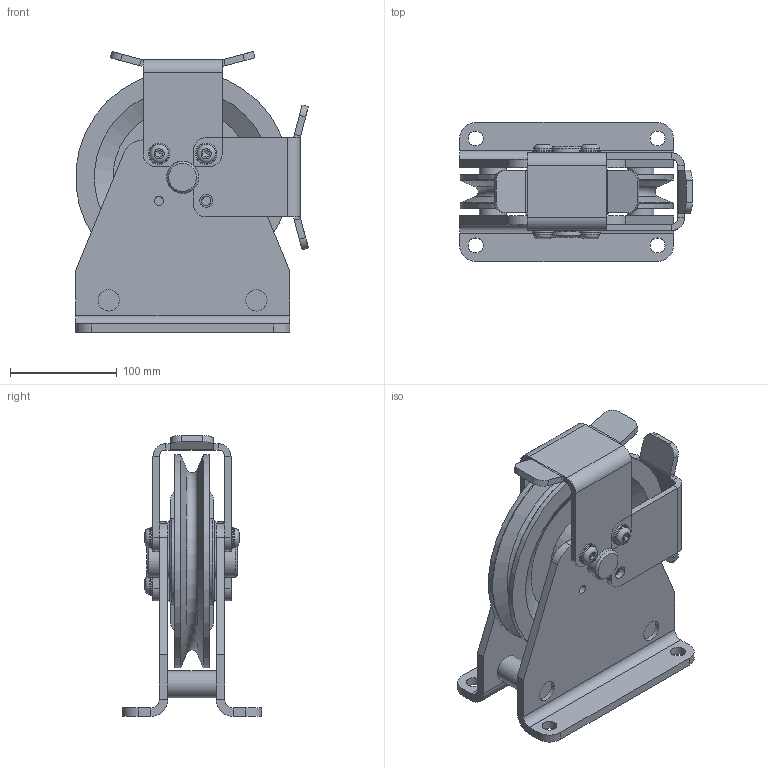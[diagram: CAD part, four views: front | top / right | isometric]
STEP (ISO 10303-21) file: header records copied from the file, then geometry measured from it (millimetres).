
FILE_DESCRIPTION(/* description */ ('Seilrollenbock Seilniederhalter ø200 Stahl Kugellager komplett'),/* implementation_level */ '2;1');
FILE_NAME(/* name */ 'Z:\Workspace\03 Seilrollen\1.406 K Seilrollenbock Seilniederhalter Kugellager\1.406.06 K Seilrollenbock Seilniederhalter ø200 Stahl Kugellager\1.406.06 K Seilrollenbock Seilniederhalter ø200 Stahl Kugellager komplett.stp',/* time_stamp */ '2021-10-07T11:40:18+02:00',/* author */ ('cad-user'),/* organization */ (''),/* preprocessor_version */ 'ST-DEVELOPER v18',/* originating_system */ 'Autodesk Inventor 2020',/* authorisation */ '');
FILE_SCHEMA (('AUTOMOTIVE_DESIGN { 1 0 10303 214 3 1 1 }'));
Length unit declared in the file: millimetre
Products named in the file (16): 1.406.06 K Seilrollenbock Seilniederhalter ø200 Stahl Kugellager 
komplett; 1.405.06.01 Seilrollenbock Schweißteil; 1.405.06.01 Blech; 1.405.06.01 Distanzachse; 1.402.06 Seilrolle ø200 Kugellager komplett; 1.402.06 Seilrolle ø200 Kugellager; 63006-2RS; ball_bearing_63006-2rs1_0_05; ball_bearing_63006-2rs1_0_04; ball_bearing_63006-2rs1_0_03; ball_bearing_63006-2rs1_0_02; ball_bearing_63006-2rs1_0_01; 1.405.06.02 Achse; 1.406.06.03 Seilniederhalter ø200; ISO 7380 - M10 x 16; DIN 125-1 - B 10,5
Assembly tree (27 placements, depth 4):
  1.406.06 K Seilrollenbock Seilniederhalter ø200 Stahl Kugellager 
komplett
    1.405.06.01 Seilrollenbock Schweißteil
      1.405.06.01 Blech  x2
      1.405.06.01 Distanzachse  x2
    1.402.06 Seilrolle ø200 Kugellager komplett
      1.402.06 Seilrolle ø200 Kugellager
      63006-2RS  x2
        ball_bearing_63006-2rs1_0_05
        ball_bearing_63006-2rs1_0_04
        ball_bearing_63006-2rs1_0_03
        ball_bearing_63006-2rs1_0_02
        ball_bearing_63006-2rs1_0_01
    1.405.06.02 Achse
    DIN 125-1 - B 10,5  x5
    1.406.06.03 Seilniederhalter ø200  x2
    ISO 7380 - M10 x 16  x5
Bounding box: 217.56 x 130 x 262.56 mm (x, y, z)
Volume: 1531734.9 mm3; surface area: 420526.8 mm2
Topology: 28 solids, 28 shells, 405 faces, 1038 edges, 712 vertices
Faces by surface type: plane 203, cylinder 136, torus 43, cone 23
Full cylindrical faces by diameter (mm): 8.376 x8, 10 x5, 10.5 x5, 12 x8, 14 x4, 17.5 x5, 20 x13, 25 x2, 30 x5, 37.327 x4, 39.875 x4, 44.962 x4, 45 x1, 48.345 x4, 48.525 x4, 49 x8, 55 x4, 80 x2, 200 x2
Entity records: 6803 total; most frequent: DIRECTION 1243, CARTESIAN_POINT 1077, ORIENTED_EDGE 982, AXIS2_PLACEMENT_3D 526, EDGE_CURVE 491, VERTEX_POINT 339, CIRCLE 293, EDGE_LOOP 244
